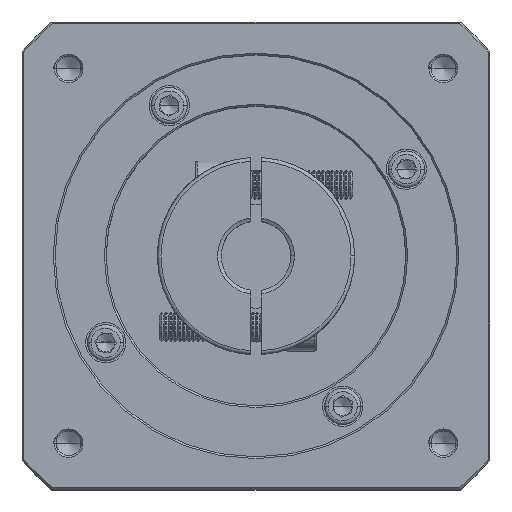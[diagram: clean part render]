
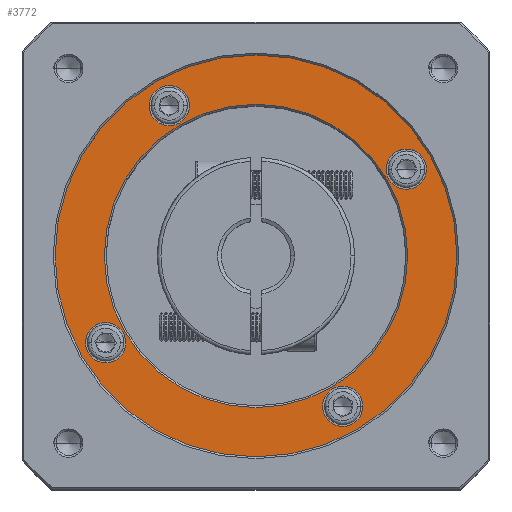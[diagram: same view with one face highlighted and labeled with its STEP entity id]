
A CAD part, top view. The second image highlights one B-rep face of the part: STEP entity #3772.
In plain terms, the highlighted planar face has unit normal (0, 0, 1).
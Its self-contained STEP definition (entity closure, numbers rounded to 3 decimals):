
#804 = EDGE_CURVE ( 'NONE', #36527, #34863, #97367, .T. ) ;
#1327 = CARTESIAN_POINT ( 'NONE',  ( 103.813, 167.498, 75.911 ) ) ;
#3439 = CARTESIAN_POINT ( 'NONE',  ( 21.541, 119.998, 75.911 ) ) ;
#3772 = ADVANCED_FACE ( 'NONE', ( #80470, #77506, #33335, #52512, #27418, #30353 ), #109372, .T. ) ;
#4432 = VERTEX_POINT ( 'NONE', #23748 ) ;
#4749 = CIRCLE ( 'NONE', #7638, 55. ) ;
#5578 = AXIS2_PLACEMENT_3D ( 'NONE', #3439, #69303, #12915 ) ;
#5755 = ORIENTED_EDGE ( 'NONE', *, *, #17550, .T. ) ;
#7638 = AXIS2_PLACEMENT_3D ( 'NONE', #20937, #86812, #30443 ) ;
#7854 = AXIS2_PLACEMENT_3D ( 'NONE', #45332, #111199, #54802 ) ;
#8246 = CIRCLE ( 'NONE', #33820, 5.5 ) ;
#9161 = DIRECTION ( 'NONE',  ( 0., 0., -1. ) ) ;
#10632 = AXIS2_PLACEMENT_3D ( 'NONE', #39496, #105269, #48929 ) ;
#10838 = DIRECTION ( 'NONE',  ( 1., 0., 0. ) ) ;
#11581 = DIRECTION ( 'NONE',  ( 0., 0., -1. ) ) ;
#12634 = CIRCLE ( 'NONE', #10632, 5.5 ) ;
#12915 = DIRECTION ( 'NONE',  ( 1., 0., 0. ) ) ;
#14088 = CIRCLE ( 'NONE', #106816, 5.5 ) ;
#17550 = EDGE_CURVE ( 'NONE', #70489, #100195, #4749, .T. ) ;
#20442 = CARTESIAN_POINT ( 'NONE',  ( 21.541, 119.998, 75.911 ) ) ;
#20937 = CARTESIAN_POINT ( 'NONE',  ( 62.677, 143.748, 75.911 ) ) ;
#21562 = CIRCLE ( 'NONE', #5578, 5.5 ) ;
#21920 = CARTESIAN_POINT ( 'NONE',  ( 7.677, 143.748, 75.911 ) ) ;
#23748 = CARTESIAN_POINT ( 'NONE',  ( 62.677, 102.248, 75.911 ) ) ;
#24895 = CARTESIAN_POINT ( 'NONE',  ( 62.677, 143.748, 75.911 ) ) ;
#26205 = ORIENTED_EDGE ( 'NONE', *, *, #63012, .T. ) ;
#27037 = ORIENTED_EDGE ( 'NONE', *, *, #75205, .T. ) ;
#27418 = FACE_BOUND ( 'NONE', #72305, .T. ) ;
#29942 = DIRECTION ( 'NONE',  ( 1., 0., 0. ) ) ;
#30353 = FACE_BOUND ( 'NONE', #66197, .T. ) ;
#30443 = DIRECTION ( 'NONE',  ( 1., 0., 0. ) ) ;
#30497 = VERTEX_POINT ( 'NONE', #102107 ) ;
#31822 = CARTESIAN_POINT ( 'NONE',  ( 27.041, 119.998, 75.911 ) ) ;
#32070 = DIRECTION ( 'NONE',  ( 0., 0., -1. ) ) ;
#32505 = CARTESIAN_POINT ( 'NONE',  ( 86.427, 102.612, 75.911 ) ) ;
#32592 = CIRCLE ( 'NONE', #7854, 41.5 ) ;
#33335 = FACE_BOUND ( 'NONE', #60876, .T. ) ;
#33820 = AXIS2_PLACEMENT_3D ( 'NONE', #1327, #67210, #10838 ) ;
#34148 = EDGE_CURVE ( 'NONE', #64505, #30497, #83397, .T. ) ;
#34214 = AXIS2_PLACEMENT_3D ( 'NONE', #99408, #43094, #108937 ) ;
#34430 = DIRECTION ( 'NONE',  ( 1., 0., 0. ) ) ;
#34863 = VERTEX_POINT ( 'NONE', #77646 ) ;
#36527 = VERTEX_POINT ( 'NONE', #57536 ) ;
#39496 = CARTESIAN_POINT ( 'NONE',  ( 86.427, 102.612, 75.911 ) ) ;
#39632 = VERTEX_POINT ( 'NONE', #53155 ) ;
#42028 = DIRECTION ( 'NONE',  ( 1., 0., 0. ) ) ;
#43094 = DIRECTION ( 'NONE',  ( 0., 0., -1. ) ) ;
#43171 = CIRCLE ( 'NONE', #71652, 41.5 ) ;
#45332 = CARTESIAN_POINT ( 'NONE',  ( 62.677, 143.748, 75.911 ) ) ;
#48929 = DIRECTION ( 'NONE',  ( 1., 0., 0. ) ) ;
#49730 = CARTESIAN_POINT ( 'NONE',  ( 62.677, 143.748, 75.911 ) ) ;
#50832 = EDGE_LOOP ( 'NONE', ( #59771, #73214 ) ) ;
#52512 = FACE_BOUND ( 'NONE', #50832, .T. ) ;
#53155 = CARTESIAN_POINT ( 'NONE',  ( 98.313, 167.498, 75.911 ) ) ;
#54802 = DIRECTION ( 'NONE',  ( 0., -1., 0. ) ) ;
#57536 = CARTESIAN_POINT ( 'NONE',  ( 44.427, 184.884, 75.911 ) ) ;
#58176 = AXIS2_PLACEMENT_3D ( 'NONE', #32505, #98336, #42028 ) ;
#59209 = DIRECTION ( 'NONE',  ( 1., 0., 0. ) ) ;
#59771 = ORIENTED_EDGE ( 'NONE', *, *, #113607, .T. ) ;
#59968 = EDGE_LOOP ( 'NONE', ( #77991, #5755 ) ) ;
#60876 = EDGE_LOOP ( 'NONE', ( #65506, #83447 ) ) ;
#62426 = AXIS2_PLACEMENT_3D ( 'NONE', #24895, #90797, #34430 ) ;
#63012 = EDGE_CURVE ( 'NONE', #34863, #36527, #118831, .T. ) ;
#64505 = VERTEX_POINT ( 'NONE', #75419 ) ;
#65506 = ORIENTED_EDGE ( 'NONE', *, *, #79830, .T. ) ;
#65528 = CARTESIAN_POINT ( 'NONE',  ( 62.677, 143.748, 75.911 ) ) ;
#66197 = EDGE_LOOP ( 'NONE', ( #112149, #27037 ) ) ;
#67210 = DIRECTION ( 'NONE',  ( 0., 0., -1. ) ) ;
#67944 = CARTESIAN_POINT ( 'NONE',  ( 38.927, 184.884, 75.911 ) ) ;
#69303 = DIRECTION ( 'NONE',  ( 0., 0., -1. ) ) ;
#70086 = EDGE_CURVE ( 'NONE', #100195, #70489, #98308, .T. ) ;
#70489 = VERTEX_POINT ( 'NONE', #21920 ) ;
#71652 = AXIS2_PLACEMENT_3D ( 'NONE', #65528, #9161, #75011 ) ;
#72305 = EDGE_LOOP ( 'NONE', ( #87318, #26205 ) ) ;
#73214 = ORIENTED_EDGE ( 'NONE', *, *, #34148, .T. ) ;
#75011 = DIRECTION ( 'NONE',  ( 0., -1., 0. ) ) ;
#75205 = EDGE_CURVE ( 'NONE', #95118, #109970, #14088, .T. ) ;
#75419 = CARTESIAN_POINT ( 'NONE',  ( 80.927, 102.612, 75.911 ) ) ;
#77431 = DIRECTION ( 'NONE',  ( 1., 0., 0. ) ) ;
#77506 = FACE_BOUND ( 'NONE', #105894, .T. ) ;
#77646 = CARTESIAN_POINT ( 'NONE',  ( 33.427, 184.884, 75.911 ) ) ;
#77991 = ORIENTED_EDGE ( 'NONE', *, *, #70086, .T. ) ;
#79830 = EDGE_CURVE ( 'NONE', #114428, #39632, #116625, .T. ) ;
#80470 = FACE_OUTER_BOUND ( 'NONE', #59968, .T. ) ;
#83294 = AXIS2_PLACEMENT_3D ( 'NONE', #67944, #11581, #77431 ) ;
#83397 = CIRCLE ( 'NONE', #58176, 5.5 ) ;
#83447 = ORIENTED_EDGE ( 'NONE', *, *, #97544, .T. ) ;
#86299 = DIRECTION ( 'NONE',  ( 0., 0., -1. ) ) ;
#86812 = DIRECTION ( 'NONE',  ( 0., 0., 1. ) ) ;
#87318 = ORIENTED_EDGE ( 'NONE', *, *, #804, .T. ) ;
#87987 = CARTESIAN_POINT ( 'NONE',  ( 62.677, 185.248, 75.911 ) ) ;
#88445 = CARTESIAN_POINT ( 'NONE',  ( 38.927, 184.884, 75.911 ) ) ;
#90797 = DIRECTION ( 'NONE',  ( 0., 0., 1. ) ) ;
#91120 = CARTESIAN_POINT ( 'NONE',  ( 117.677, 143.748, 75.911 ) ) ;
#91838 = CARTESIAN_POINT ( 'NONE',  ( 109.313, 167.498, 75.911 ) ) ;
#91923 = EDGE_CURVE ( 'NONE', #111373, #4432, #43171, .T. ) ;
#92279 = EDGE_CURVE ( 'NONE', #4432, #111373, #32592, .T. ) ;
#95118 = VERTEX_POINT ( 'NONE', #105005 ) ;
#97367 = CIRCLE ( 'NONE', #83294, 5.5 ) ;
#97544 = EDGE_CURVE ( 'NONE', #39632, #114428, #8246, .T. ) ;
#97880 = DIRECTION ( 'NONE',  ( 1., 0., 0. ) ) ;
#98308 = CIRCLE ( 'NONE', #111904, 55. ) ;
#98336 = DIRECTION ( 'NONE',  ( 0., 0., -1. ) ) ;
#98992 = AXIS2_PLACEMENT_3D ( 'NONE', #88445, #32070, #97880 ) ;
#99408 = CARTESIAN_POINT ( 'NONE',  ( 103.813, 167.498, 75.911 ) ) ;
#100195 = VERTEX_POINT ( 'NONE', #91120 ) ;
#102107 = CARTESIAN_POINT ( 'NONE',  ( 91.927, 102.612, 75.911 ) ) ;
#105005 = CARTESIAN_POINT ( 'NONE',  ( 16.041, 119.998, 75.911 ) ) ;
#105269 = DIRECTION ( 'NONE',  ( 0., 0., -1. ) ) ;
#105894 = EDGE_LOOP ( 'NONE', ( #109304, #115393 ) ) ;
#106816 = AXIS2_PLACEMENT_3D ( 'NONE', #20442, #86299, #29942 ) ;
#108937 = DIRECTION ( 'NONE',  ( 1., 0., 0. ) ) ;
#109304 = ORIENTED_EDGE ( 'NONE', *, *, #92279, .T. ) ;
#109372 = PLANE ( 'NONE',  #62426 ) ;
#109970 = VERTEX_POINT ( 'NONE', #31822 ) ;
#111199 = DIRECTION ( 'NONE',  ( 0., 0., -1. ) ) ;
#111373 = VERTEX_POINT ( 'NONE', #87987 ) ;
#111904 = AXIS2_PLACEMENT_3D ( 'NONE', #49730, #115586, #59209 ) ;
#112149 = ORIENTED_EDGE ( 'NONE', *, *, #117269, .T. ) ;
#113607 = EDGE_CURVE ( 'NONE', #30497, #64505, #12634, .T. ) ;
#114428 = VERTEX_POINT ( 'NONE', #91838 ) ;
#115393 = ORIENTED_EDGE ( 'NONE', *, *, #91923, .T. ) ;
#115586 = DIRECTION ( 'NONE',  ( 0., 0., 1. ) ) ;
#116625 = CIRCLE ( 'NONE', #34214, 5.5 ) ;
#117269 = EDGE_CURVE ( 'NONE', #109970, #95118, #21562, .T. ) ;
#118831 = CIRCLE ( 'NONE', #98992, 5.5 ) ;
